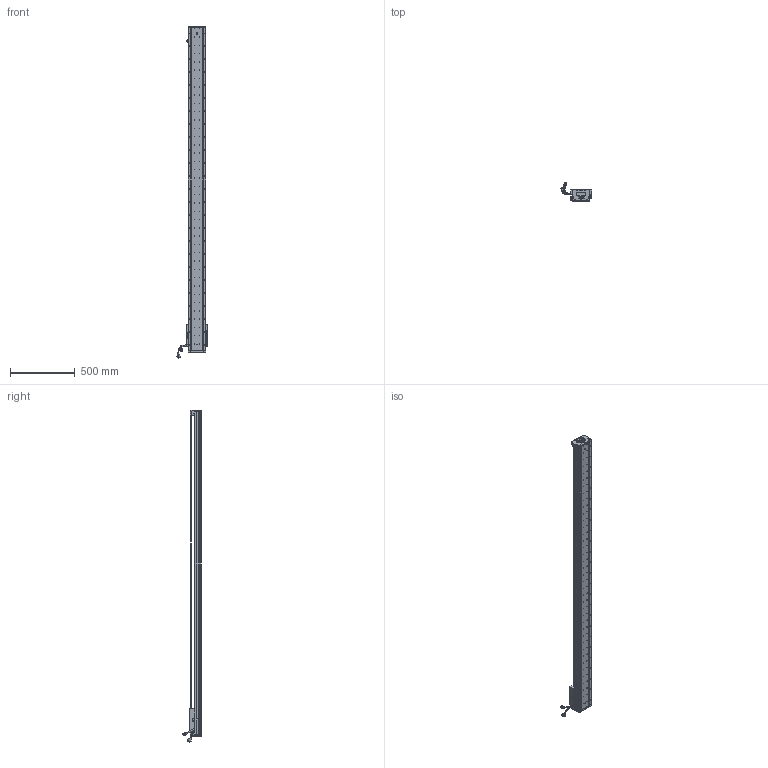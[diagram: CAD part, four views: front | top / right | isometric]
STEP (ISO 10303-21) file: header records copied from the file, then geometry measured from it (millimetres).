
FILE_DESCRIPTION (( 'STEP AP203' ), '1' );
FILE_NAME ('Z2-RY140D-1-L500-B-K.SLDASM_2250.step', '2021-05-17T07:49:04', ( '盈信电脑' ), ( '东莞市道滘镇水果街19号' ), 'SwSTEP 2.0', 'SolidWorks 2016', '' );
FILE_SCHEMA (( 'CONFIG_CONTROL_DESIGN' ));
Length unit declared in the file: millimetre
Products named in the file (36): HARNESS-Part-2; Z2-RY140-L500詩湍100mm遵_2250; 140蚥薯蝶輸; LABEL-Part-1; 覜茼ん672; HARNESS; Z-RY140詩湍奻揤裔; SCALE; SCREW-M1.6-1; 080黍杅芛假蚾釱21遴; Z2-RY140圉猾敕臏賑輸(21遴); SCREW-M1.6-3; SEAL; SCALE-Part-1; PBU_SHEET; PSLH080_PSLF2; HOLDER0; SEAL-Part-1; LABEL; SCREW-M1.7-1; Z2-RY140-L500直线电机模组底座_2250; Z-RY140感应器672光电感应片; Z2-RY140D-1-L500-B-K.SLDASM_2250; SCREW-M1.7; 140-Z-臏賑輸盄裔(21遴); COVER-Part-1; 榋妏寠巭燃_暯_M2_2; 140雄赽晤鎢ん堤盄; HARNESS-Part-1; SHIELDPLATE; SCREW-M1.6; SCREW-M1.6-2; Z-140詩湍傷裔啣; COVER; SCALE-Part-2; Z-RY140詩湍狟揤裔
Assembly tree (41 placements, depth 4):
  Z2-RY140D-1-L500-B-K.SLDASM_2250
    Z2-RY140-L500直线电机模组底座_2250
    Z-RY140感应器672光电感应片
    Z2-RY140圉猾敕臏賑輸(21遴)
    覜茼ん672  x3
    Z2-RY140-L500詩湍100mm遵_2250
    PSLH080_PSLF2
      SCALE
        SCALE-Part-1
        SCALE-Part-2
      HARNESS
        HARNESS-Part-1
        HARNESS-Part-2
      LABEL
        LABEL-Part-1
      COVER
        COVER-Part-1
      SEAL
        SEAL-Part-1
      榋妏寠巭燃_暯_M2_2
      SHIELDPLATE
      SCREW-M1.7
      SCREW-M1.7-1
      PBU_SHEET
      SCREW-M1.6
      SCREW-M1.6-1
      SCREW-M1.6-2
      SCREW-M1.6-3
      HOLDER0
    080黍杅芛假蚾釱21遴
    140-Z-臏賑輸盄裔(21遴)
    Z-140詩湍傷裔啣  x2
    Z-RY140詩湍狟揤裔  x2
    Z-RY140詩湍奻揤裔  x2
    140蚥薯蝶輸  x2
    140雄赽晤鎢ん堤盄
Bounding box: 239.84 x 143.77 x 2560.87 mm (x, y, z)
Volume: 8056864.3 mm3; surface area: 2118637.1 mm2
Topology: 36 solids, 36 shells, 4032 faces, 10960 edges, 6945 vertices
Faces by surface type: cylinder 2166, plane 1352, cone 382, torus 79, bspline 53
Entity records: 127704 total; most frequent: CARTESIAN_POINT 36069, ORIENTED_EDGE 18864, DIRECTION 17492, EDGE_CURVE 9432, AXIS2_PLACEMENT_3D 6504, VERTEX_POINT 6113, VECTOR 4484, LINE 4484
